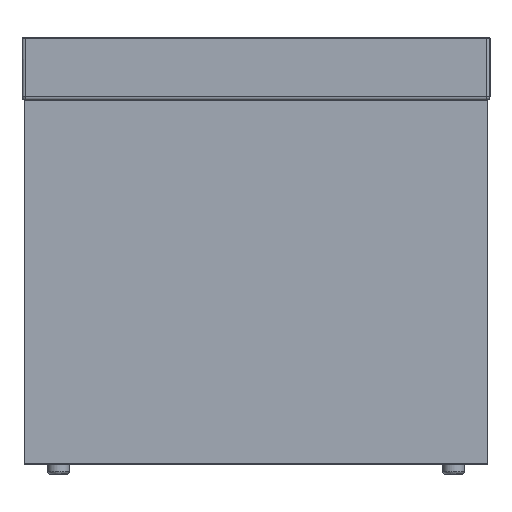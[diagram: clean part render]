
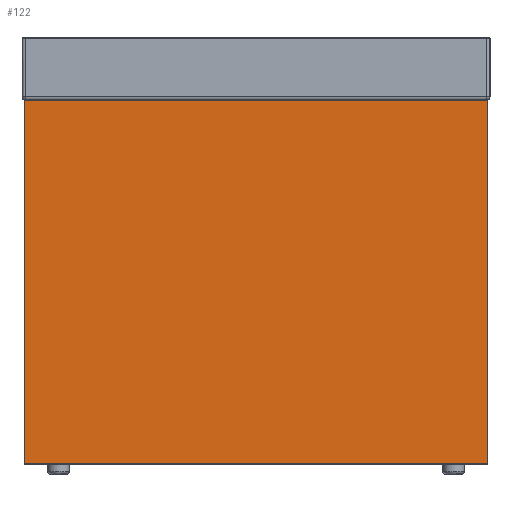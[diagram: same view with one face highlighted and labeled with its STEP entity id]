
A CAD part, left-side view. The second image highlights one B-rep face of the part: STEP entity #122.
In plain terms, the highlighted planar face has unit normal (-1, 0, 0).
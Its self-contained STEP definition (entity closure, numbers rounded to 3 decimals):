
#122=ADVANCED_FACE('',(#212),#1264,.T.);
#212=FACE_OUTER_BOUND('',#302,.T.);
#302=EDGE_LOOP('',(#568,#569,#570,#571));
#568=ORIENTED_EDGE('',*,*,#829,.F.);
#569=ORIENTED_EDGE('',*,*,#839,.T.);
#570=ORIENTED_EDGE('',*,*,#838,.T.);
#571=ORIENTED_EDGE('',*,*,#837,.F.);
#829=EDGE_CURVE('',#1155,#1154,#1037,.T.);
#837=EDGE_CURVE('',#1154,#1162,#1045,.T.);
#838=EDGE_CURVE('',#1163,#1162,#1046,.T.);
#839=EDGE_CURVE('',#1155,#1163,#1047,.T.);
#1037=B_SPLINE_CURVE_WITH_KNOTS('',1,(#2102,#2103),.UNSPECIFIED.,.F.,.F.,
(2,2),(520.101,969.899),.UNSPECIFIED.);
#1045=B_SPLINE_CURVE_WITH_KNOTS('',1,(#2118,#2119),.UNSPECIFIED.,.F.,.F.,
(2,2),(0.,349.9),.UNSPECIFIED.);
#1046=B_SPLINE_CURVE_WITH_KNOTS('',1,(#2120,#2121),.UNSPECIFIED.,.F.,.F.,
(2,2),(0.1,445.9),.UNSPECIFIED.);
#1047=B_SPLINE_CURVE_WITH_KNOTS('',1,(#2122,#2123),.UNSPECIFIED.,.F.,.F.,
(2,2),(0.,349.9),.UNSPECIFIED.);
#1154=VERTEX_POINT('',#1780);
#1155=VERTEX_POINT('',#1781);
#1162=VERTEX_POINT('',#1788);
#1163=VERTEX_POINT('',#1789);
#1264=PLANE('',#1338);
#1338=AXIS2_PLACEMENT_3D('',#1684,#1395,$);
#1395=DIRECTION('',(-1.,0.,0.));
#1684=CARTESIAN_POINT('',(-748.,223.,10.));
#1780=CARTESIAN_POINT('',(-748.,-222.9,360.));
#1781=CARTESIAN_POINT('',(-748.,222.9,360.));
#1788=CARTESIAN_POINT('',(-748.,-222.9,10.1));
#1789=CARTESIAN_POINT('',(-748.,222.9,10.1));
#2102=CARTESIAN_POINT('',(-748.,222.9,360.));
#2103=CARTESIAN_POINT('',(-748.,-222.9,360.));
#2118=CARTESIAN_POINT('',(-748.,-222.9,360.));
#2119=CARTESIAN_POINT('',(-748.,-222.9,10.1));
#2120=CARTESIAN_POINT('',(-748.,222.9,10.1));
#2121=CARTESIAN_POINT('',(-748.,-222.9,10.1));
#2122=CARTESIAN_POINT('',(-748.,222.9,360.));
#2123=CARTESIAN_POINT('',(-748.,222.9,10.1));
